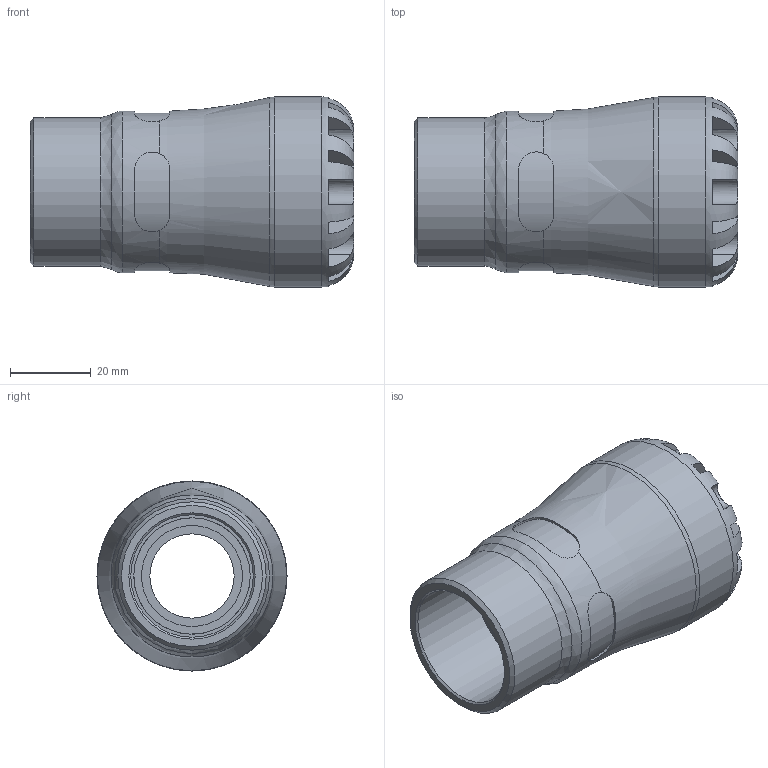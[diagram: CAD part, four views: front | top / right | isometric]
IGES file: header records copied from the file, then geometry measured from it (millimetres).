
Global section: file name: 100300025010_190300025010.ipt; native system: Autodesk Inventor 2015; preprocessor: unknown; author: KIM; date: 20170122.094942; units: millimetre
Bounding box: 80 x 47 x 47 mm (x, y, z)
Volume: 61625.1 mm3; surface area: 19937.4 mm2
Topology: 1 solids, 1 shells, 106 faces, 282 edges, 182 vertices
Faces by surface type: plane 62, revolution 28, cylinder 15, cone 1
Full cylindrical faces by diameter (mm): 36.66 x1, 39.95 x1, 47 x1
